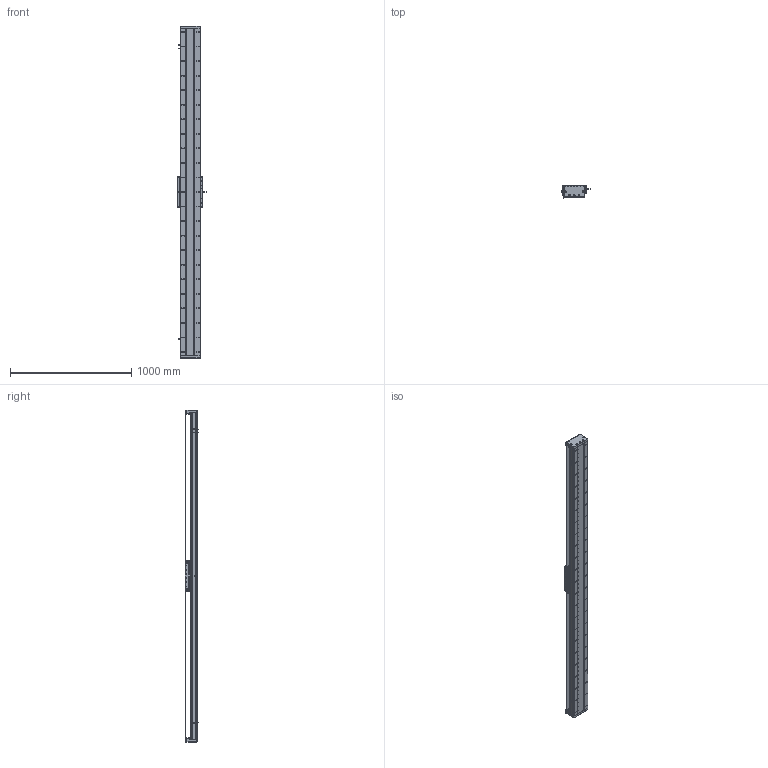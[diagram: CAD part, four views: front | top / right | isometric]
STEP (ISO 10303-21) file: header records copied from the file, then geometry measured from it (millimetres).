
FILE_DESCRIPTION (( 'STEP AP203' ), '1' );
FILE_NAME ('DA-C165-C3-T2400-C010-0.2 直线电机.STEP', '2023-06-13T08:53:35', ( '微软用户' ), ( '微软中国' ), 'SwSTEP 2.0', 'SolidWorks 2019', '' );
FILE_SCHEMA (( 'CONFIG_CONTROL_DESIGN' ));
Length unit declared in the file: millimetre
Products named in the file (18): 葩璃 CKM03-W075-C1C2-TP-3.0^DA-C165-C3-T-C010-0.2-N 眻盄萇儂; IU-CU165-L 菁釱絳寢; 葩璃 CKM01-W075-TRL^DA-C165-C3-T-C010-0.2-N 眻盄萇儂; 葩璃 DA95-GT-T-00^IU-CU165-L 菁釱絳寢_T; 珨极趙賑雄怢啣C3-wf; DA-C165-C3-T2400-C010-0.2 眻盄萇儂; 复件 DA165-GDLK-00 钢带拉块^复件 CU165钢带组件_DA-C165-C3-T-C010-0.2-N 直线电机; 复件 CU165钢带组件^DA-C165-C3-T-C010-0.2-N 直线电机; 复件 DA165-GD-DG-H-00 端盖^复件 CU165钢带组件_DA-C165-C3-T-C010-0.2-N 直线电机; 葩璃 PM-T45^DA-C165-C3-T-C010-0.2-N 眻盄萇儂; 复件 DA165-GDYK-00 钢带压块^复件 CU165钢带组件_DA-C165-C3-T-C010-0.2-N 直线电机; 复件 DA165-GYP-00 光电感应片^DA-C165-C3-T-C010-0.2-N 直线电机; 复件 DA165-GD-1860-002-00 钢带盖板^复件 CU165钢带组件_DA-C165-C3-T-C010-0.2-N 直线电机; 复件 CU165 底座^IU-CU165-L 底座导轨_L2700; 复件 六角薄螺母 M3^DA-C165-C3-T-C010-0.2-N 直线电机_GB_FASTENER_NUT_STNAB M3-C; 复件 XD-U-02L 磁栅尺^DA-C165-C3-T-C010-0.2-N 直线电机_T; 复件 DMA-010-0.2 读数头^DA-C165-C3-T-C010-0.2-N 直线电机; 复件 DA95-HXJ-00 缓冲橡胶^DA-C165-C3-T-C010-0.2-N 直线电机
Assembly tree (35 placements, depth 3):
  DA-C165-C3-T2400-C010-0.2 眻盄萇儂
    IU-CU165-L 菁釱絳寢
      复件 CU165 底座^IU-CU165-L 底座导轨_L2700
      葩璃 DA95-GT-T-00^IU-CU165-L 菁釱絳寢_T  x4
    复件 XD-U-02L 磁栅尺^DA-C165-C3-T-C010-0.2-N 直线电机_T
    葩璃 PM-T45^DA-C165-C3-T-C010-0.2-N 眻盄萇儂  x3
    葩璃 CKM01-W075-TRL^DA-C165-C3-T-C010-0.2-N 眻盄萇儂
    复件 CU165钢带组件^DA-C165-C3-T-C010-0.2-N 直线电机
      复件 DA165-GD-DG-H-00 端盖^复件 CU165钢带组件_DA-C165-C3-T-C010-0.2-N 直线电机  x2
      复件 DA165-GDYK-00 钢带压块^复件 CU165钢带组件_DA-C165-C3-T-C010-0.2-N 直线电机  x2
      复件 DA165-GD-1860-002-00 钢带盖板^复件 CU165钢带组件_DA-C165-C3-T-C010-0.2-N 直线电机
      复件 DA165-GDLK-00 钢带拉块^复件 CU165钢带组件_DA-C165-C3-T-C010-0.2-N 直线电机  x2
    复件 DA95-HXJ-00 缓冲橡胶^DA-C165-C3-T-C010-0.2-N 直线电机  x4
    复件 DA165-GYP-00 光电感应片^DA-C165-C3-T-C010-0.2-N 直线电机
    复件 DMA-010-0.2 读数头^DA-C165-C3-T-C010-0.2-N 直线电机
    葩璃 CKM03-W075-C1C2-TP-3.0^DA-C165-C3-T-C010-0.2-N 眻盄萇儂
    复件 六角薄螺母 M3^DA-C165-C3-T-C010-0.2-N 直线电机_GB_FASTENER_NUT_STNAB M3-C  x8
    珨极趙賑雄怢啣C3-wf
Bounding box: 233 x 111.45 x 2740 mm (x, y, z)
Volume: 15673735.8 mm3; surface area: 4656911.8 mm2
Topology: 72 solids, 122 shells, 4422 faces, 12713 edges, 8042 vertices
Faces by surface type: cylinder 2576, plane 1220, cone 576, torus 46, sphere 4
Entity records: 146871 total; most frequent: CARTESIAN_POINT 40027, ORIENTED_EDGE 22178, DIRECTION 21617, EDGE_CURVE 11089, AXIS2_PLACEMENT_3D 8310, VERTEX_POINT 7230, EDGE_LOOP 5149, LINE 4997
